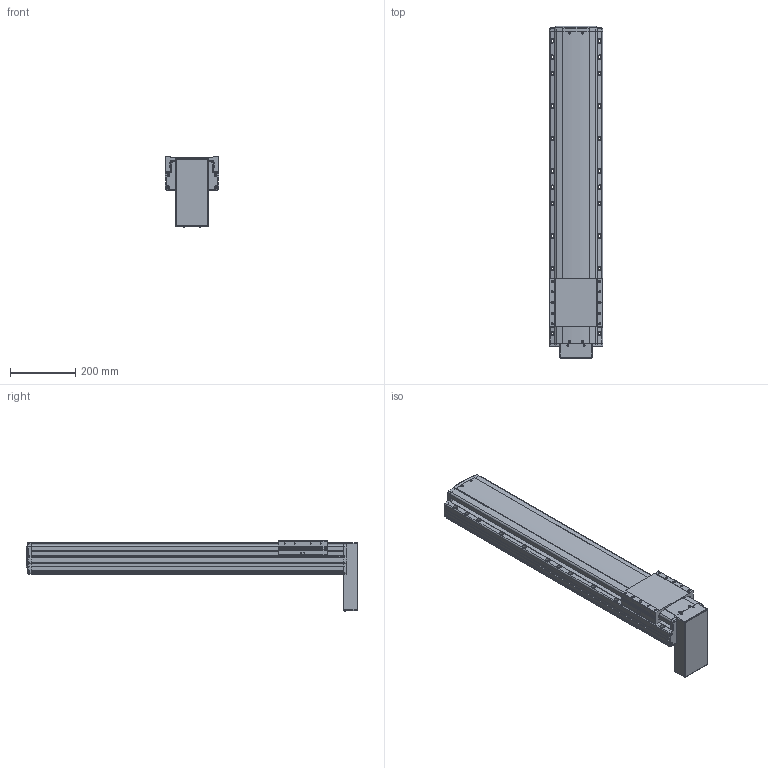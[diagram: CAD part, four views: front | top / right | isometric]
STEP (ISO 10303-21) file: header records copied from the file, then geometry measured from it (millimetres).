
FILE_DESCRIPTION(('STEP AP214'),'1');
FILE_NAME('Z:/Web/3D/PSA165/STP/PSA165-700 (3D)/PSA165ㅁㅁ-700PB.stp','2014-06-23T11:40:31',(' '),(' '),'Spatial InterOp 3D',' ',' ');
FILE_SCHEMA(('automotive_design'));
Length unit declared in the file: millimetre
Products named in the file (29): 스크루 : Round - M4.0 x 12.0; RRCV-PA160; BASE; 스크루 : Round - M4.0 x 10.0; RN15; Screw 20; SLIDE; FRCV; MTPL CV- PB; 스크루 : Round - M3.0 x 6.0; 1; 2
Bounding box: 165 x 1020.8 x 215.96 mm (x, y, z)
Volume: 14442724.5 mm3; surface area: 944690.4 mm2
Topology: 29 solids, 29 shells, 2179 faces, 5836 edges, 3716 vertices
Faces by surface type: plane 1174, cylinder 698, cone 214, sphere 52, bspline 25, torus 16
Entity records: 88565 total; most frequent: CARTESIAN_POINT 15770, DIRECTION 11607, ORIENTED_EDGE 11380, EDGE_CURVE 5690, AXIS2_PLACEMENT_3D 3933, LINE 3741, VECTOR 3741, VERTEX_POINT 3716
